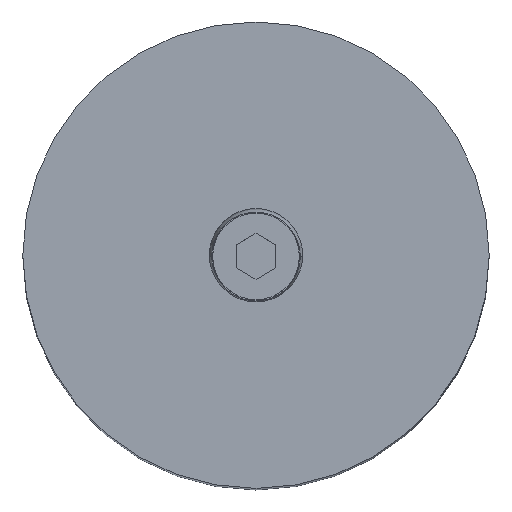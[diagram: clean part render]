
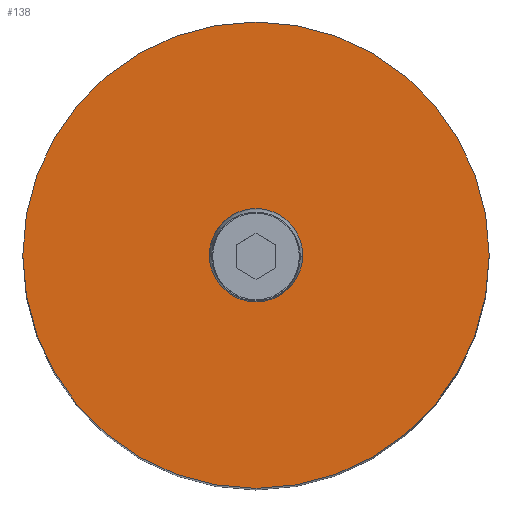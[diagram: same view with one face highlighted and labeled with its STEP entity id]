
A CAD part, top view. The second image highlights one B-rep face of the part: STEP entity #138.
In plain terms, the highlighted planar face has unit normal (0, 0, 1).
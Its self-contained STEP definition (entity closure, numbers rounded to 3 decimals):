
#107=PLANE('',#636);
#122=FACE_BOUND('',#215,.T.);
#123=FACE_BOUND('',#216,.T.);
#138=ADVANCED_FACE('',(#122,#123),#107,.T.);
#215=EDGE_LOOP('',(#297,#298));
#216=EDGE_LOOP('',(#299,#300));
#255=CIRCLE('',#628,35.);
#258=CIRCLE('',#632,35.);
#259=CIRCLE('',#634,7.);
#260=CIRCLE('',#635,7.);
#297=ORIENTED_EDGE('',*,*,#484,.T.);
#298=ORIENTED_EDGE('',*,*,#480,.T.);
#299=ORIENTED_EDGE('',*,*,#485,.F.);
#300=ORIENTED_EDGE('',*,*,#486,.F.);
#434=VERTEX_POINT('',#878);
#435=VERTEX_POINT('',#880);
#437=VERTEX_POINT('',#889);
#438=VERTEX_POINT('',#890);
#480=EDGE_CURVE('',#435,#434,#255,.T.);
#484=EDGE_CURVE('',#434,#435,#258,.T.);
#485=EDGE_CURVE('',#437,#438,#259,.T.);
#486=EDGE_CURVE('',#438,#437,#260,.T.);
#628=AXIS2_PLACEMENT_3D('',#879,#700,#701);
#632=AXIS2_PLACEMENT_3D('',#886,#709,#710);
#634=AXIS2_PLACEMENT_3D('',#888,#713,#714);
#635=AXIS2_PLACEMENT_3D('',#891,#715,#716);
#636=AXIS2_PLACEMENT_3D('',#892,#717,#718);
#700=DIRECTION('',(0.,0.,1.));
#701=DIRECTION('',(0.,1.,0.));
#709=DIRECTION('',(0.,0.,1.));
#710=DIRECTION('',(0.,-1.,0.));
#713=DIRECTION('',(0.,0.,1.));
#714=DIRECTION('',(0.,1.,0.));
#715=DIRECTION('',(0.,0.,1.));
#716=DIRECTION('',(0.,-1.,0.));
#717=DIRECTION('',(0.,0.,1.));
#718=DIRECTION('',(0.,-1.,0.));
#878=CARTESIAN_POINT('',(35.,0.,140.));
#879=CARTESIAN_POINT('',(0.,0.,140.));
#880=CARTESIAN_POINT('',(-35.,0.,140.));
#886=CARTESIAN_POINT('',(0.,0.,140.));
#888=CARTESIAN_POINT('',(0.,0.,140.));
#889=CARTESIAN_POINT('',(-7.,0.,140.));
#890=CARTESIAN_POINT('',(7.,0.,140.));
#891=CARTESIAN_POINT('',(0.,0.,140.));
#892=CARTESIAN_POINT('',(0.,0.,140.));
